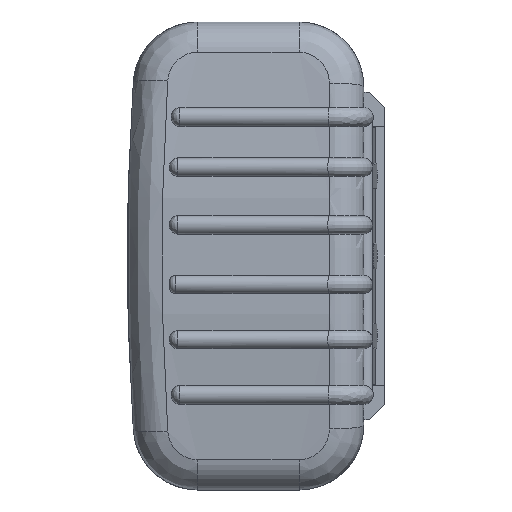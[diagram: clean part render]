
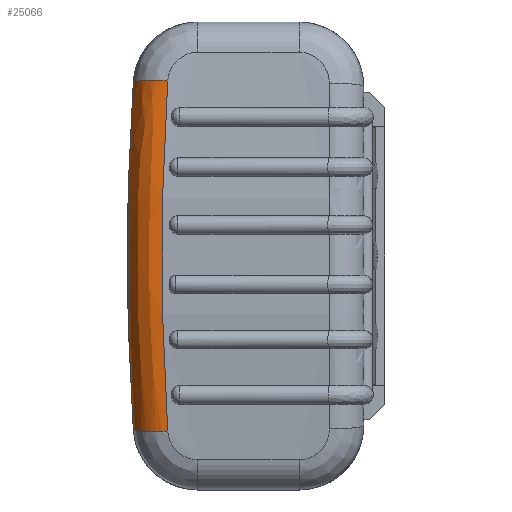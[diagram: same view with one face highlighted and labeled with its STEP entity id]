
A CAD part, left-side view. The second image highlights one B-rep face of the part: STEP entity #25066.
In plain terms, the highlighted free-form (B-spline) face has degree [3, 2] with [6, 3] control points.
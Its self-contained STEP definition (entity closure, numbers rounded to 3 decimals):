
#776 = CARTESIAN_POINT ( 'NONE',  ( 90.667, 46.777, -13.516 ) ) ;
#3170 = CARTESIAN_POINT ( 'NONE',  ( 90.667, 54.777, 13.695 ) ) ;
#3213 = CARTESIAN_POINT ( 'NONE',  ( 88.505, 45.446, -40.548 ) ) ;
#3840 = DIRECTION ( 'NONE',  ( -0.106, -0.067, 0.992 ) ) ;
#4197 = EDGE_CURVE ( 'NONE', #5247, #8979, #16795, .T. ) ;
#4368 = CARTESIAN_POINT ( 'NONE',  ( 80.55, 45.446, -39.698 ) ) ;
#4507 = CARTESIAN_POINT ( 'NONE',  ( 83.368, 55.225, 0. ) ) ;
#4524 = EDGE_CURVE ( 'NONE', #17790, #29426, #23507, .T. ) ;
#5247 = VERTEX_POINT ( 'NONE', #5799 ) ;
#5567 = CARTESIAN_POINT ( 'NONE',  ( 81.965, 54.328, 26.823 ) ) ;
#5799 = CARTESIAN_POINT ( 'NONE',  ( 88.505, 45.446, 40.548 ) ) ;
#6760 = DIRECTION ( 'NONE',  ( 0.994, 0., -0.106 ) ) ;
#6926 = CARTESIAN_POINT ( 'NONE',  ( 80.55, 53.428, -40.234 ) ) ;
#7964 = CARTESIAN_POINT ( 'NONE',  ( 89.95, 46.334, 27.032 ) ) ;
#8474 = FACE_OUTER_BOUND ( 'NONE', #16499, .T. ) ;
#8979 = VERTEX_POINT ( 'NONE', #27240 ) ;
#10151 = CARTESIAN_POINT ( 'NONE',  ( 89.95, 46.334, 27.032 ) ) ;
#10167 = CARTESIAN_POINT ( 'NONE',  ( 80.55, 53.428, -40.234 ) ) ;
#10267 = CARTESIAN_POINT ( 'NONE',  ( 81.965, 54.328, -26.823 ) ) ;
#10375 = CARTESIAN_POINT ( 'NONE',  ( 88.449, 53.371, 41.074 ) ) ;
#10925 = ORIENTED_EDGE ( 'NONE', *, *, #12519, .F. ) ;
#12450 = CARTESIAN_POINT ( 'NONE',  ( 89.95, 46.334, -27.032 ) ) ;
#12519 = EDGE_CURVE ( 'NONE', #8979, #29426, #22310, .T. ) ;
#12678 = CARTESIAN_POINT ( 'NONE',  ( 89.95, 46.334, -27.032 ) ) ;
#14047 = B_SPLINE_CURVE_WITH_KNOTS ( 'NONE', 3,
 ( #29233, #12450, #24473, #10151, #26910 ),
 .UNSPECIFIED., .F., .F.,
 ( 4, 1, 4 ),
 ( 0., 0.041, 0.081 ),
 .UNSPECIFIED. ) ;
#15093 = CARTESIAN_POINT ( 'NONE',  ( 90.667, 54.777, -13.695 ) ) ;
#15553 = CARTESIAN_POINT ( 'NONE',  ( 80.55, 53.428, -40.234 ) ) ;
#15785 =( BOUNDED_SURFACE ( )  B_SPLINE_SURFACE ( 3, 2, ( 
 ( #10167, #19792, #24600 ),
 ( #10267, #27013, #12678 ),
 ( #29469, #15093, #776 ),
 ( #17488, #3170, #19889 ),
 ( #5567, #22311, #7964 ),
 ( #24694, #10375, #27122 ) ),
 .UNSPECIFIED., .F., .F., .T. ) 
 B_SPLINE_SURFACE_WITH_KNOTS ( ( 4, 2, 4 ),
 ( 3, 3 ),
 ( 0., 0.04, 0.079 ),
 ( 0., 1. ),
 .UNSPECIFIED. ) 
 GEOMETRIC_REPRESENTATION_ITEM ( )  RATIONAL_B_SPLINE_SURFACE ( (
 ( 1., 0.71, 1.),
 ( 1., 0.708, 1.),
 ( 1., 0.707, 1.),
 ( 1., 0.707, 1.),
 ( 1., 0.708, 1.),
 ( 1., 0.71, 1.) ) ) 
 REPRESENTATION_ITEM ( '' )  SURFACE ( )  );
#16342 = CARTESIAN_POINT ( 'NONE',  ( 80.55, 53.428, 40.234 ) ) ;
#16442 = CARTESIAN_POINT ( 'NONE',  ( 81.965, 54.328, 26.822 ) ) ;
#16499 = EDGE_LOOP ( 'NONE', ( #28859, #10925, #18747, #24509 ) ) ;
#16795 = CIRCLE ( 'NONE', #17239, 8. ) ;
#17239 = AXIS2_PLACEMENT_3D ( 'NONE', #18145, #3840, #20570 ) ;
#17488 = CARTESIAN_POINT ( 'NONE',  ( 82.667, 54.777, 13.411 ) ) ;
#17790 = VERTEX_POINT ( 'NONE', #3213 ) ;
#18145 = CARTESIAN_POINT ( 'NONE',  ( 80.55, 45.446, 39.698 ) ) ;
#18747 = ORIENTED_EDGE ( 'NONE', *, *, #4197, .F. ) ;
#19792 = CARTESIAN_POINT ( 'NONE',  ( 88.449, 53.371, -41.074 ) ) ;
#19889 = CARTESIAN_POINT ( 'NONE',  ( 90.667, 46.777, 13.516 ) ) ;
#20570 = DIRECTION ( 'NONE',  ( 0.994, 0., 0.106 ) ) ;
#21103 = DIRECTION ( 'NONE',  ( 0.106, 0.067, 0.992 ) ) ;
#21262 = CARTESIAN_POINT ( 'NONE',  ( 81.965, 54.328, -26.822 ) ) ;
#22310 = B_SPLINE_CURVE_WITH_KNOTS ( 'NONE', 3,
 ( #16342, #16442, #4507, #21262, #6926 ),
 .UNSPECIFIED., .F., .F.,
 ( 4, 1, 4 ),
 ( 0., 0.04, 0.08 ),
 .UNSPECIFIED. ) ;
#22311 = CARTESIAN_POINT ( 'NONE',  ( 89.935, 54.311, 27.357 ) ) ;
#23507 = CIRCLE ( 'NONE', #26291, 8. ) ;
#24473 = CARTESIAN_POINT ( 'NONE',  ( 91.383, 47.219, 0. ) ) ;
#24509 = ORIENTED_EDGE ( 'NONE', *, *, #28809, .F. ) ;
#24600 = CARTESIAN_POINT ( 'NONE',  ( 88.505, 45.446, -40.548 ) ) ;
#24694 = CARTESIAN_POINT ( 'NONE',  ( 80.55, 53.428, 40.234 ) ) ;
#25066 = ADVANCED_FACE ( 'NONE', ( #8474 ), #15785, .T. ) ;
#26291 = AXIS2_PLACEMENT_3D ( 'NONE', #4368, #21103, #6760 ) ;
#26910 = CARTESIAN_POINT ( 'NONE',  ( 88.505, 45.446, 40.548 ) ) ;
#27013 = CARTESIAN_POINT ( 'NONE',  ( 89.935, 54.311, -27.357 ) ) ;
#27122 = CARTESIAN_POINT ( 'NONE',  ( 88.505, 45.446, 40.548 ) ) ;
#27240 = CARTESIAN_POINT ( 'NONE',  ( 80.55, 53.428, 40.234 ) ) ;
#28809 = EDGE_CURVE ( 'NONE', #17790, #5247, #14047, .T. ) ;
#28859 = ORIENTED_EDGE ( 'NONE', *, *, #4524, .T. ) ;
#29233 = CARTESIAN_POINT ( 'NONE',  ( 88.505, 45.446, -40.548 ) ) ;
#29426 = VERTEX_POINT ( 'NONE', #15553 ) ;
#29469 = CARTESIAN_POINT ( 'NONE',  ( 82.667, 54.777, -13.411 ) ) ;
